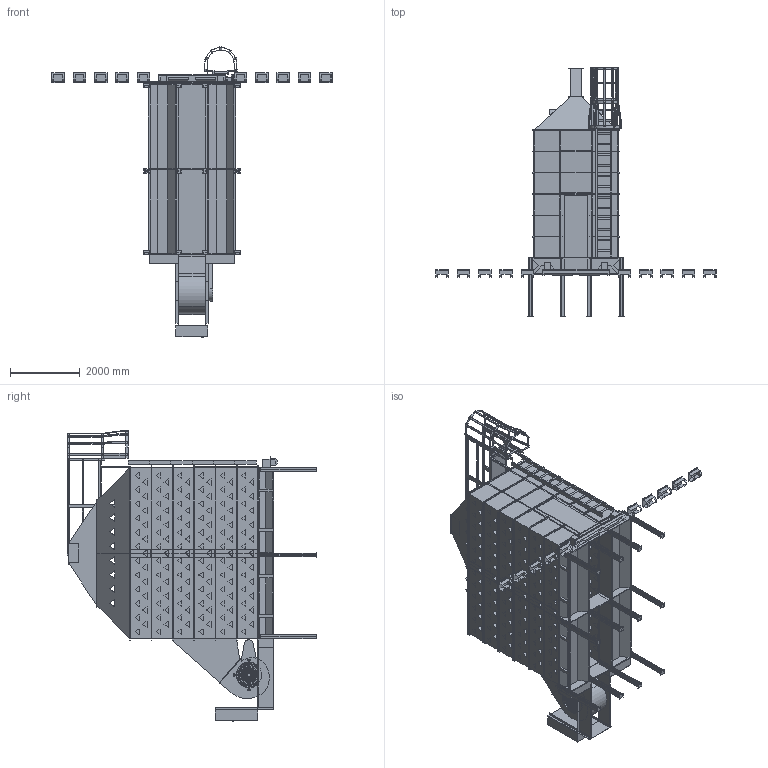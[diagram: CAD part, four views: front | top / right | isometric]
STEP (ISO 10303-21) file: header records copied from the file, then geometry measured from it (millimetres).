
FILE_DESCRIPTION(/* description */ ('PLAN AND ELEVATION VIEW FOR D1680 WITH ROOF & GRAVITY FILL'),/* implementation_level */ '2;1');
FILE_NAME(/* name */ 'C:\Engineering\Designs\Sales\Dryer\Workspaces\D16 All\D1680GF.stp',/* time_stamp */ '2025-01-06T16:42:46-06:00',/* author */ ('max.fleming'),/* organization */ (''),/* preprocessor_version */ 'ST-DEVELOPER v18.1',/* originating_system */ 'Autodesk Inventor 2022',/* authorisation */ '');
FILE_SCHEMA (('AUTOMOTIVE_DESIGN { 1 0 10303 214 3 1 1 }'));
Products named in the file (21): D1680GF; 16FT FRAME; 8FT LHRH FRAME; 16FT Grav Assy; 16FT ROOF GF; 8FTRoof GF LHRH; 16FT BODY TIER; LH Body; RH Body; LH Body_MIR6; RH Body_MIR6; Outside Splice; Trans & Blower 16FT; Standard Size End Plenum Panels; Ladder 2' section; 6'' CROSS AUGER; Short Tongue; Leg Kit-02; 16FT CATWALK; Belt Shield; Screen Guard 16
Assembly tree (46 placements, depth 3):
  D1680GF
    16FT FRAME
      8FT LHRH FRAME  x2
    16FT Grav Assy
    16FT ROOF GF
      8FTRoof GF LHRH  x2
    16FT BODY TIER  x6
      LH Body
      RH Body
      LH Body_MIR6
      RH Body_MIR6
      Outside Splice
    Leg Kit-02  x12
    Trans & Blower 16FT
    Standard Size End Plenum Panels  x9
    Short Tongue
    16FT CATWALK
    Belt Shield
    Screen Guard 16  x2
  Ladder 2' section
  6'' CROSS AUGER
Bounding box: 8007.35 x 7120.34 x 8298.27 mm (x, y, z)
Volume: 35173751148.6 mm3; surface area: 481412431.2 mm2
Topology: 97 solids, 97 shells, 6768 faces, 18787 edges, 12306 vertices
Faces by surface type: plane 5115, cylinder 1625, bspline 26, torus 2
Full cylindrical faces by diameter (mm): 15.875 x48, 38.1 x1, 44.45 x14, 95.25 x2, 127 x2
Entity records: 100055 total; most frequent: CARTESIAN_POINT 17769, ORIENTED_EDGE 17384, DIRECTION 16112, EDGE_CURVE 8692, LINE 7208, VECTOR 7208, VERTEX_POINT 5693, AXIS2_PLACEMENT_3D 4452
